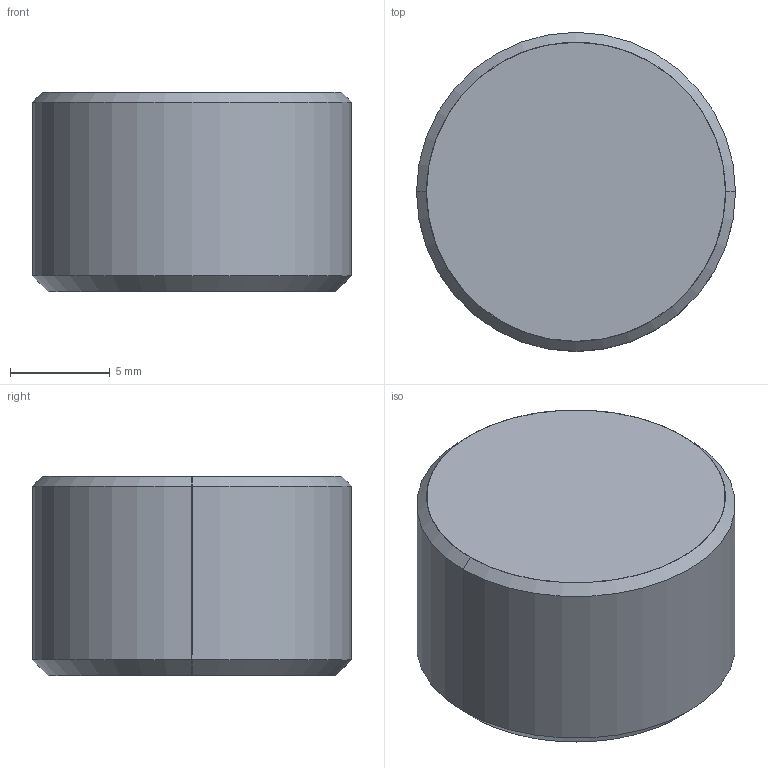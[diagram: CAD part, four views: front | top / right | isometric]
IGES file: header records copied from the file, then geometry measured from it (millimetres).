
Start section: SolidWorks IGES file using analytic representation for surfaces
Global section: file name: X:\11_SW2020-Inv2020\00_全2021-11新製品まで\s\SRP-160\srp-160.IGS; native system: SolidWorks 2020; preprocessor: SolidWorks 2020; author: ImaoCorp; date: 211025.132842; units: millimetre
Bounding box: 16 x 16 x 10 mm (x, y, z)
Surface area: 959.6 mm2 (no closed solid volume)
Topology: 0 solids, 0 shells, 11 faces, 160 edges, 160 vertices
Faces by surface type: revolution 8, bspline 3
